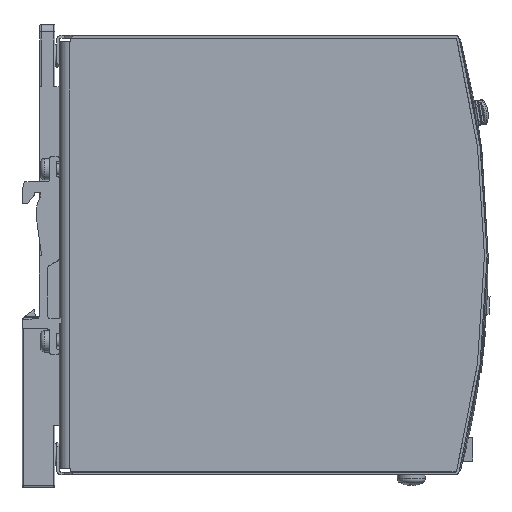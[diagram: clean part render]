
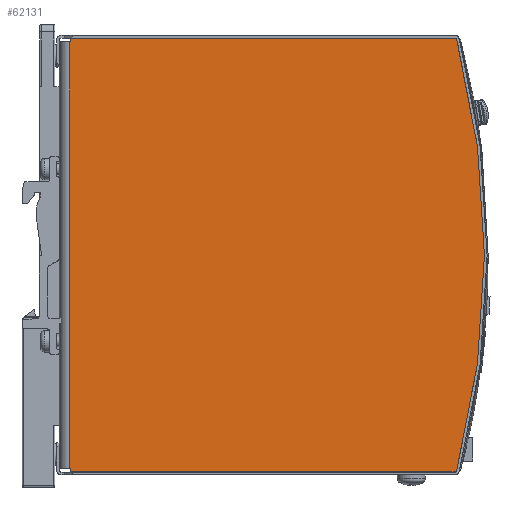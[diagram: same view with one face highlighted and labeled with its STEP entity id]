
A CAD part, front view. The second image highlights one B-rep face of the part: STEP entity #62131.
In plain terms, the highlighted planar face has unit normal (0, -1, 0) as drawn and (-1, 0, 0) by its records, which use the part's own axes.
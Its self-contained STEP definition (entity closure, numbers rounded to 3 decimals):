
#2696=CIRCLE('',#65434,0.5);
#2697=CIRCLE('',#65435,240.);
#2698=CIRCLE('',#65436,0.5);
#4879=PLANE('',#65433);
#7345=FACE_OUTER_BOUND('',#11250,.T.);
#11250=EDGE_LOOP('',(#51158,#51159,#51160,#51161,#51162,#51163,#51164,#51165,
#51166,#51167));
#17462=LINE('',#91279,#24488);
#17466=LINE('',#91288,#24492);
#17472=LINE('',#91302,#24498);
#17475=LINE('',#91312,#24501);
#17486=LINE('',#91337,#24512);
#17493=LINE('',#91355,#24519);
#17494=LINE('',#91363,#24520);
#24488=VECTOR('',#74985,0.1);
#24492=VECTOR('',#74993,1.);
#24498=VECTOR('',#75003,1.);
#24501=VECTOR('',#75012,0.1);
#24512=VECTOR('',#75031,108.593);
#24519=VECTOR('',#75052,120.3);
#24520=VECTOR('',#75061,108.593);
#30245=VERTEX_POINT('',#91276);
#30246=VERTEX_POINT('',#91278);
#30249=VERTEX_POINT('',#91286);
#30254=VERTEX_POINT('',#91299);
#30255=VERTEX_POINT('',#91301);
#30259=VERTEX_POINT('',#91310);
#30269=VERTEX_POINT('',#91335);
#30274=VERTEX_POINT('',#91357);
#30275=VERTEX_POINT('',#91359);
#30276=VERTEX_POINT('',#91361);
#37696=EDGE_CURVE('',#30246,#30245,#17462,.T.);
#37701=EDGE_CURVE('',#30245,#30249,#17466,.T.);
#37707=EDGE_CURVE('',#30255,#30254,#17472,.T.);
#37712=EDGE_CURVE('',#30254,#30259,#17475,.T.);
#37725=EDGE_CURVE('',#30249,#30269,#17486,.T.);
#37735=EDGE_CURVE('',#30246,#30259,#17493,.T.);
#37736=EDGE_CURVE('',#30274,#30269,#2696,.T.);
#37737=EDGE_CURVE('',#30274,#30275,#2697,.T.);
#37738=EDGE_CURVE('',#30276,#30275,#2698,.T.);
#37739=EDGE_CURVE('',#30276,#30255,#17494,.T.);
#51158=ORIENTED_EDGE('',*,*,#37696,.T.);
#51159=ORIENTED_EDGE('',*,*,#37701,.T.);
#51160=ORIENTED_EDGE('',*,*,#37725,.T.);
#51161=ORIENTED_EDGE('',*,*,#37736,.F.);
#51162=ORIENTED_EDGE('',*,*,#37737,.T.);
#51163=ORIENTED_EDGE('',*,*,#37738,.F.);
#51164=ORIENTED_EDGE('',*,*,#37739,.T.);
#51165=ORIENTED_EDGE('',*,*,#37707,.T.);
#51166=ORIENTED_EDGE('',*,*,#37712,.T.);
#51167=ORIENTED_EDGE('',*,*,#37735,.F.);
#62131=ADVANCED_FACE('',(#7345),#4879,.T.);
#65433=AXIS2_PLACEMENT_3D('',#91356,#75053,#75054);
#65434=AXIS2_PLACEMENT_3D('',#91358,#75055,#75056);
#65435=AXIS2_PLACEMENT_3D('',#91360,#75057,#75058);
#65436=AXIS2_PLACEMENT_3D('',#91362,#75059,#75060);
#74985=DIRECTION('',(0.,0.,-1.));
#74993=DIRECTION('',(0.,1.,0.));
#75003=DIRECTION('',(0.,1.,0.));
#75012=DIRECTION('',(0.,0.,1.));
#75031=DIRECTION('',(0.,0.,-1.));
#75052=DIRECTION('',(0.,-1.,0.));
#75053=DIRECTION('center_axis',(-1.,0.,0.));
#75054=DIRECTION('ref_axis',(0.,0.,1.));
#75055=DIRECTION('center_axis',(1.,0.,0.));
#75056=DIRECTION('ref_axis',(0.,0.792,-0.611));
#75057=DIRECTION('center_axis',(-1.,0.,0.));
#75058=DIRECTION('ref_axis',(0.,0.,1.));
#75059=DIRECTION('center_axis',(1.,0.,0.));
#75060=DIRECTION('ref_axis',(0.,-0.792,-0.611));
#75061=DIRECTION('',(0.,0.,1.));
#91276=CARTESIAN_POINT('',(-32.5,60.15,-1.6));
#91278=CARTESIAN_POINT('',(-32.5,60.15,-1.5));
#91279=CARTESIAN_POINT('',(-32.5,60.15,1.5));
#91286=CARTESIAN_POINT('',(-32.5,61.15,-1.6));
#91288=CARTESIAN_POINT('',(-32.5,-0.25,-1.6));
#91299=CARTESIAN_POINT('',(-32.5,-60.15,-1.6));
#91301=CARTESIAN_POINT('',(-32.5,-61.15,-1.6));
#91302=CARTESIAN_POINT('',(-32.5,-60.9,-1.6));
#91310=CARTESIAN_POINT('',(-32.5,-60.15,-1.5));
#91312=CARTESIAN_POINT('',(-32.5,-60.15,1.5));
#91335=CARTESIAN_POINT('',(-32.5,61.15,-110.193));
#91337=CARTESIAN_POINT('',(-32.5,61.15,-128.5));
#91355=CARTESIAN_POINT('',(-32.5,-61.15,-1.5));
#91356=CARTESIAN_POINT('Origin',(-32.5,-61.15,1.5));
#91357=CARTESIAN_POINT('',(-32.5,60.777,-110.677));
#91358=CARTESIAN_POINT('Origin',(-32.5,60.65,-110.193));
#91359=CARTESIAN_POINT('',(-32.5,-60.777,-110.677));
#91360=CARTESIAN_POINT('Origin',(-32.5,0.,121.5));
#91361=CARTESIAN_POINT('',(-32.5,-61.15,-110.193));
#91362=CARTESIAN_POINT('Origin',(-32.5,-60.65,-110.193));
#91363=CARTESIAN_POINT('',(-32.5,-61.15,-128.5));
